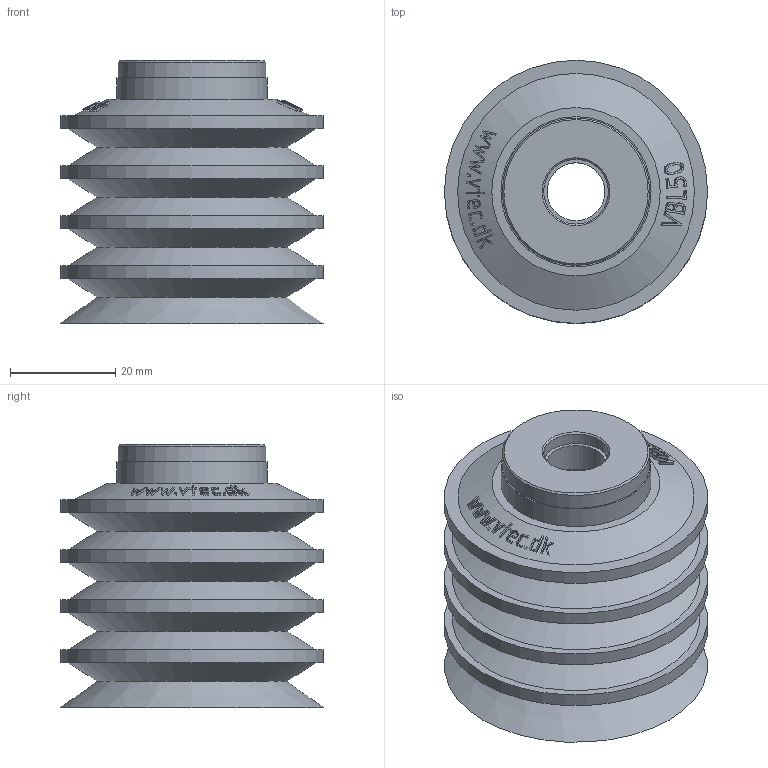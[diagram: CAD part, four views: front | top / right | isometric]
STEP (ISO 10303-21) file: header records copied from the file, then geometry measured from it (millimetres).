
FILE_DESCRIPTION( ( 'STEP AP203' ), '1' );
FILE_NAME( 'C:/撲啗紫賊-02/3D-蘋驍煎斜/Vacuum Pad/VBL series/VBL50.stp', '2006-04-24T11:53:48', ( ' ' ), ( ' ' ), 'XStep 1.0', ' ', ' ' );
FILE_SCHEMA( ( 'CONFIG_CONTROL_DESIGN) ( )' ) );
Length unit declared in the file: metre
Products named in the file (1): 1
Bounding box: 50 x 50 x 50 mm (x, y, z)
Volume: 20591.8 mm3; surface area: 23762.5 mm2
Topology: 1 solids, 1 shells, 197 faces, 472 edges, 310 vertices
Faces by surface type: bspline 132, cone 41, plane 15, cylinder 9
Full cylindrical faces by diameter (mm): 11 x1, 12.3 x1, 14.5 x1, 28 x1, 28.516 x1, 50 x4
Entity records: 11430 total; most frequent: CARTESIAN_POINT 7910, ORIENTED_EDGE 876, EDGE_CURVE 438, B_SPLINE_CURVE_WITH_KNOTS 314, VERTEX_POINT 308, DIRECTION 300, EDGE_LOOP 264, FACE_OUTER_BOUND 208
